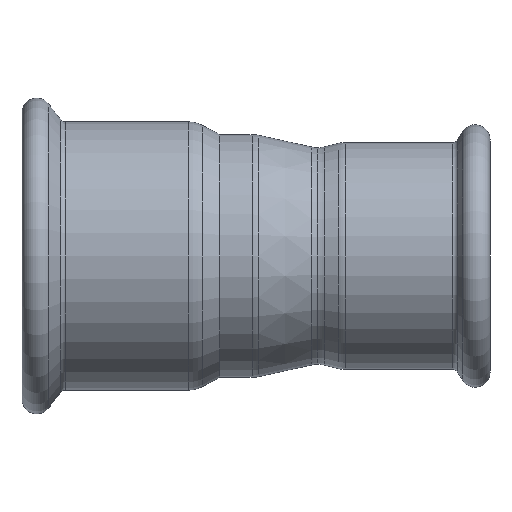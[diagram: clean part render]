
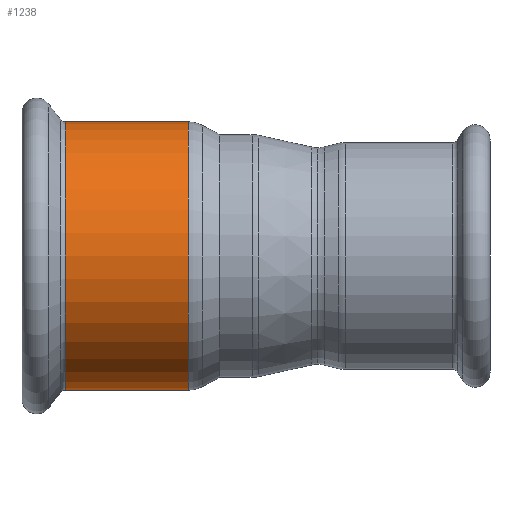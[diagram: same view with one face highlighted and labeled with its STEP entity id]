
A CAD part, front view. The second image highlights one B-rep face of the part: STEP entity #1238.
In plain terms, the highlighted cylindrical face has radius 22.65 mm (diameter 45.3 mm), a partial arc.
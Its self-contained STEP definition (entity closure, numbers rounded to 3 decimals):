
#65 = CYLINDRICAL_SURFACE ( 'NONE', #2894, 22.65 ) ;
#80 = DIRECTION ( 'NONE',  ( 0., 0., 1. ) ) ;
#295 = CARTESIAN_POINT ( 'NONE',  ( -13.306, 0., 0. ) ) ;
#509 = DIRECTION ( 'NONE',  ( -1., 0., 0. ) ) ;
#514 = DIRECTION ( 'NONE',  ( -1., 0., 0. ) ) ;
#630 = CIRCLE ( 'NONE', #1825, 22.65 ) ;
#649 = DIRECTION ( 'NONE',  ( 1., 0., 0. ) ) ;
#671 = CARTESIAN_POINT ( 'NONE',  ( -13.306, 0., 22.65 ) ) ;
#838 = VERTEX_POINT ( 'NONE', #1415 ) ;
#876 = VECTOR ( 'NONE', #2783, 1000. ) ;
#1200 = CARTESIAN_POINT ( 'NONE',  ( -44.93, 0., 0. ) ) ;
#1233 = CARTESIAN_POINT ( 'NONE',  ( -34.076, 0., 22.65 ) ) ;
#1238 = ADVANCED_FACE ( 'NONE', ( #2866 ), #65, .T. ) ;
#1357 = VERTEX_POINT ( 'NONE', #1233 ) ;
#1415 = CARTESIAN_POINT ( 'NONE',  ( -13.306, 0., -22.65 ) ) ;
#1473 = ORIENTED_EDGE ( 'NONE', *, *, #1839, .T. ) ;
#1603 = DIRECTION ( 'NONE',  ( -1., 0., 0. ) ) ;
#1610 = AXIS2_PLACEMENT_3D ( 'NONE', #295, #514, #1680 ) ;
#1617 = ORIENTED_EDGE ( 'NONE', *, *, #2687, .T. ) ;
#1680 = DIRECTION ( 'NONE',  ( 0., 0., -1. ) ) ;
#1773 = EDGE_LOOP ( 'NONE', ( #2997, #1473, #1617, #2128 ) ) ;
#1825 = AXIS2_PLACEMENT_3D ( 'NONE', #2927, #649, #2301 ) ;
#1839 = EDGE_CURVE ( 'NONE', #838, #2502, #2001, .T. ) ;
#1866 = LINE ( 'NONE', #2798, #876 ) ;
#2001 = CIRCLE ( 'NONE', #1610, 22.65 ) ;
#2019 = VECTOR ( 'NONE', #1603, 1000. ) ;
#2117 = LINE ( 'NONE', #2343, #2019 ) ;
#2128 = ORIENTED_EDGE ( 'NONE', *, *, #2947, .T. ) ;
#2301 = DIRECTION ( 'NONE',  ( 0., 0., 1. ) ) ;
#2343 = CARTESIAN_POINT ( 'NONE',  ( -44.93, 0., -22.65 ) ) ;
#2502 = VERTEX_POINT ( 'NONE', #671 ) ;
#2687 = EDGE_CURVE ( 'NONE', #2502, #1357, #1866, .T. ) ;
#2759 = CARTESIAN_POINT ( 'NONE',  ( -34.076, 0., -22.65 ) ) ;
#2782 = VERTEX_POINT ( 'NONE', #2759 ) ;
#2783 = DIRECTION ( 'NONE',  ( -1., 0., 0. ) ) ;
#2798 = CARTESIAN_POINT ( 'NONE',  ( -44.93, 0., 22.65 ) ) ;
#2807 = EDGE_CURVE ( 'NONE', #838, #2782, #2117, .T. ) ;
#2866 = FACE_OUTER_BOUND ( 'NONE', #1773, .T. ) ;
#2894 = AXIS2_PLACEMENT_3D ( 'NONE', #1200, #509, #80 ) ;
#2927 = CARTESIAN_POINT ( 'NONE',  ( -34.076, 0., 0. ) ) ;
#2947 = EDGE_CURVE ( 'NONE', #1357, #2782, #630, .T. ) ;
#2997 = ORIENTED_EDGE ( 'NONE', *, *, #2807, .F. ) ;
